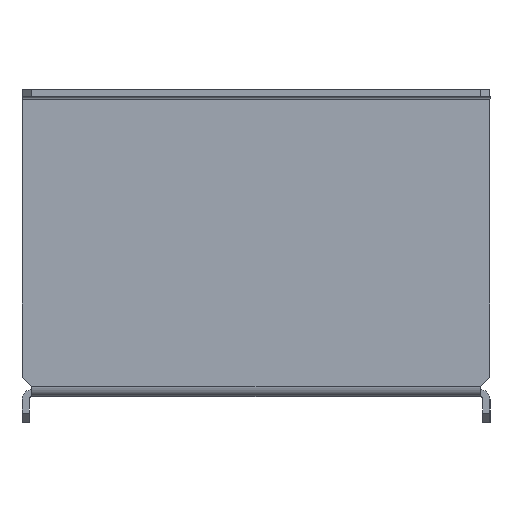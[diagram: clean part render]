
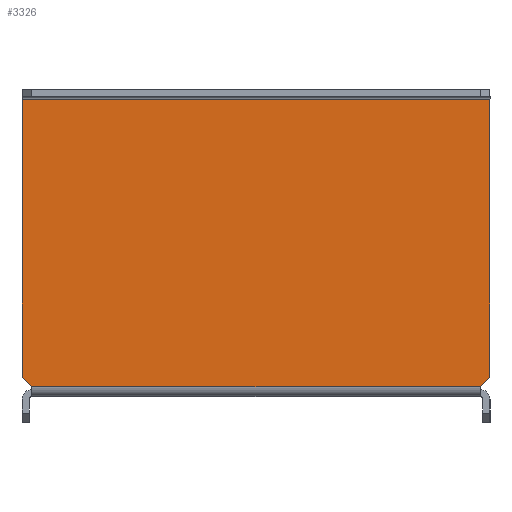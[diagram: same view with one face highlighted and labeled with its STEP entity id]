
A CAD part, left-side view. The second image highlights one B-rep face of the part: STEP entity #3326.
In plain terms, the highlighted planar face has unit normal (-1, 0, 0).
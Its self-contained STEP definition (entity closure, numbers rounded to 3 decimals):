
#2081=CARTESIAN_POINT(' ',(-159.,49.5,61.4));
#2086=DIRECTION(' ',(0.,-1.,0.));
#2091=VECTOR(' ',#2086,1.);
#2096=LINE('',#2081,#2091);
#2101=CARTESIAN_POINT(' ',(-159.,49.5,61.4));
#2102=VERTEX_POINT(' ',#2101);
#2106=CARTESIAN_POINT(' ',(-159.,-49.5,61.4));
#2107=VERTEX_POINT(' ',#2106);
#2111=EDGE_CURVE(' ',#2102,#2107,#2096,.T.);
#3046=DIRECTION(' ',(-1.,0.,0.));
#3051=CARTESIAN_POINT(' ',(-159.,-49.5,61.4));
#3056=DIRECTION(' ',(0.,1.,0.));
#3061=AXIS2_PLACEMENT_3D(' ',#3051,#3046,#3056);
#3066=PLANE('NONE',#3061);
#3071=CARTESIAN_POINT(' ',(-159.,-47.5,0.6));
#3076=DIRECTION(' ',(0.,1.,0.));
#3081=VECTOR(' ',#3076,1.);
#3086=LINE('',#3071,#3081);
#3091=CARTESIAN_POINT(' ',(-159.,-47.5,0.6));
#3092=VERTEX_POINT(' ',#3091);
#3096=CARTESIAN_POINT(' ',(-159.,-47.4,0.6));
#3097=VERTEX_POINT(' ',#3096);
#3101=EDGE_CURVE(' ',#3092,#3097,#3086,.T.);
#3106=ORIENTED_EDGE(' ',*,*,#3101,.F.);
#3111=CARTESIAN_POINT(' ',(-159.,-47.5,0.6));
#3116=DIRECTION(' ',(0.,-0.707,0.707));
#3121=VECTOR(' ',#3116,1.);
#3126=LINE('',#3111,#3121);
#3131=CARTESIAN_POINT(' ',(-159.,-49.5,2.6));
#3132=VERTEX_POINT(' ',#3131);
#3136=EDGE_CURVE(' ',#3092,#3132,#3126,.T.);
#3141=ORIENTED_EDGE(' ',*,*,#3136,.T.);
#3146=CARTESIAN_POINT(' ',(-159.,-49.5,2.6));
#3151=DIRECTION(' ',(0.,0.,1.));
#3156=VECTOR(' ',#3151,1.);
#3161=LINE('',#3146,#3156);
#3166=EDGE_CURVE(' ',#3132,#2107,#3161,.T.);
#3171=ORIENTED_EDGE(' ',*,*,#3166,.T.);
#3176=ORIENTED_EDGE(' ',*,*,#2111,.F.);
#3181=CARTESIAN_POINT(' ',(-159.,49.5,61.4));
#3186=DIRECTION(' ',(0.,0.,-1.));
#3191=VECTOR(' ',#3186,1.);
#3196=LINE('',#3181,#3191);
#3201=CARTESIAN_POINT(' ',(-159.,49.5,2.6));
#3202=VERTEX_POINT(' ',#3201);
#3206=EDGE_CURVE(' ',#2102,#3202,#3196,.T.);
#3211=ORIENTED_EDGE(' ',*,*,#3206,.T.);
#3216=CARTESIAN_POINT(' ',(-159.,49.5,2.6));
#3221=DIRECTION(' ',(0.,-0.707,-0.707));
#3226=VECTOR(' ',#3221,1.);
#3231=LINE('',#3216,#3226);
#3236=CARTESIAN_POINT(' ',(-159.,47.5,0.6));
#3237=VERTEX_POINT(' ',#3236);
#3241=EDGE_CURVE(' ',#3202,#3237,#3231,.T.);
#3246=ORIENTED_EDGE(' ',*,*,#3241,.T.);
#3251=CARTESIAN_POINT(' ',(-159.,47.4,0.6));
#3256=DIRECTION(' ',(0.,1.,0.));
#3261=VECTOR(' ',#3256,1.);
#3266=LINE('',#3251,#3261);
#3271=CARTESIAN_POINT(' ',(-159.,47.4,0.6));
#3272=VERTEX_POINT(' ',#3271);
#3276=EDGE_CURVE(' ',#3272,#3237,#3266,.T.);
#3281=ORIENTED_EDGE(' ',*,*,#3276,.F.);
#3286=CARTESIAN_POINT(' ',(-159.,-47.4,0.6));
#3291=DIRECTION(' ',(0.,1.,0.));
#3296=VECTOR(' ',#3291,1.);
#3301=LINE('',#3286,#3296);
#3306=EDGE_CURVE(' ',#3097,#3272,#3301,.T.);
#3311=ORIENTED_EDGE(' ',*,*,#3306,.F.);
#3316=EDGE_LOOP(' ',(#3106,#3141,#3171,#3176,#3211,#3246,#3281,#3311));
#3321=FACE_OUTER_BOUND(' ',#3316,.T.);
#3326=ADVANCED_FACE('NONE',(#3321),#3066,.T.);
